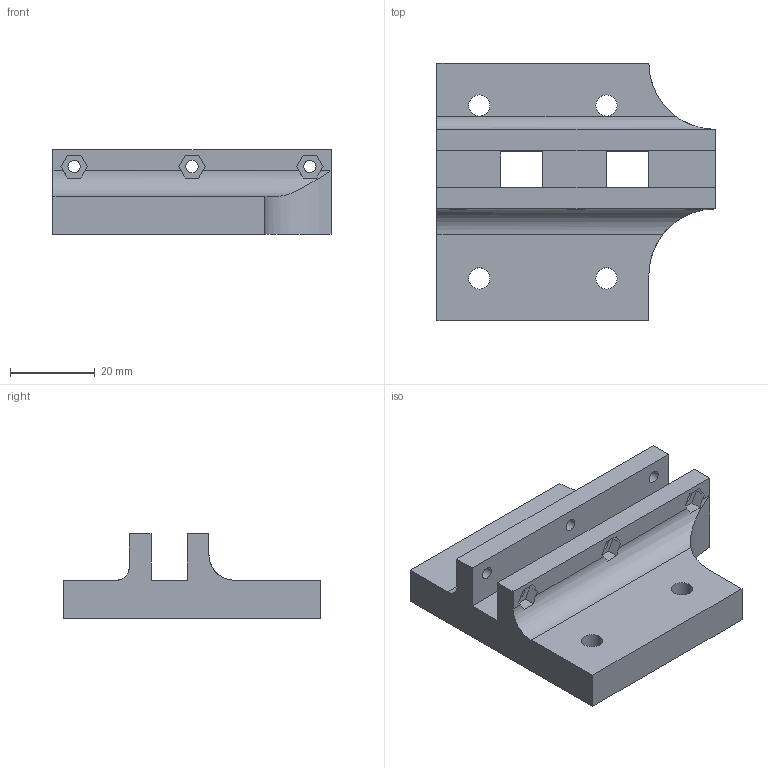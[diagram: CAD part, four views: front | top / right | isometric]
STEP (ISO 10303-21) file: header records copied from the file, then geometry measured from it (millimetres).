
FILE_DESCRIPTION(('FreeCAD Model'),'2;1');
FILE_NAME('/home/ricardo/FreeCAD/myPrinter/FreeCAD/extruder_holder.step' ,'2015-01-03T07:04:22',('Author'),(''), 'Open CASCADE STEP processor 6.7','FreeCAD','Unknown');
FILE_SCHEMA(('AUTOMOTIVE_DESIGN_CC2 { 1 2 10303 214 -1 1 5 4 }'));
Length unit declared in the file: millimetre
Products named in the file (1): final_extruder_holder_v1
Bounding box: 65.61 x 60.8 x 20 mm (x, y, z)
Volume: 36251.2 mm3; surface area: 12960.5 mm2
Topology: 1 solids, 1 shells, 62 faces, 181 edges, 122 vertices
Faces by surface type: plane 45, cylinder 17
Full cylindrical faces by diameter (mm): 2.92 x6, 5 x4, 5.55 x3
Entity records: 4545 total; most frequent: CARTESIAN_POINT 996, DIRECTION 613, LINE 385, VECTOR 385, ORIENTED_EDGE 362, PCURVE 362, DEFINITIONAL_REPRESENTATION 362, EDGE_CURVE 181
